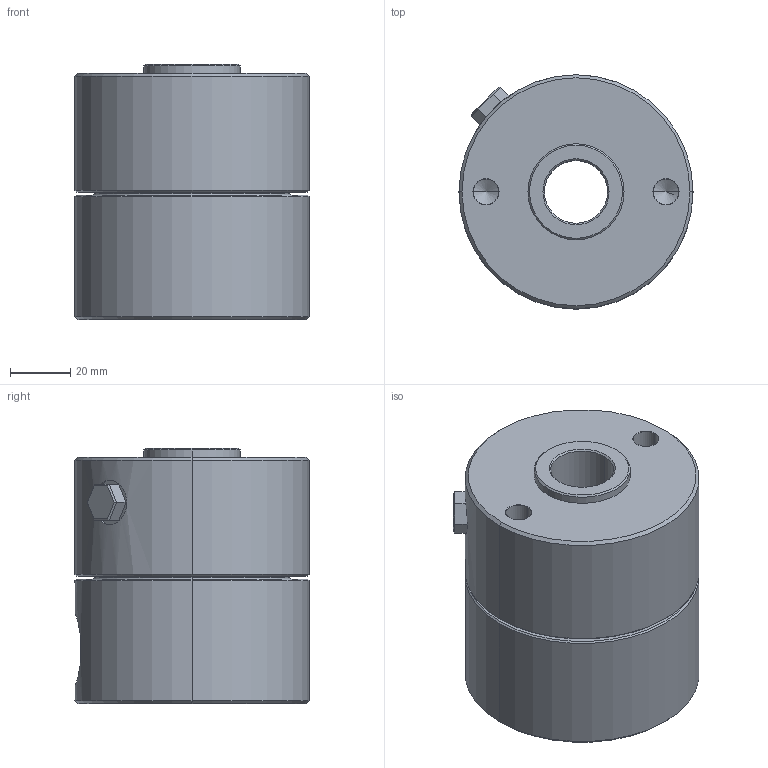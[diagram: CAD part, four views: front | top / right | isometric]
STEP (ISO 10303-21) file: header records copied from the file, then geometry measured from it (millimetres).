
FILE_DESCRIPTION (( 'STEP AP203' ), '1' );
FILE_NAME ('4610-411.STEP', '2016-01-29T10:17:29', ( '' ), ( '' ), 'SwSTEP 2.0', 'SolidWorks 2015', '' );
FILE_SCHEMA (( 'CONFIG_CONTROL_DESIGN' ));
Length unit declared in the file: millimetre
Products named in the file (1): 4610-411
Bounding box: 78 x 78 x 85 mm (x, y, z)
Volume: 356679.1 mm3; surface area: 39597.9 mm2
Topology: 1 solids, 2 shells, 71 faces, 152 edges, 86 vertices
Faces by surface type: cone 26, plane 21, cylinder 20, torus 4
Entity records: 2097 total; most frequent: CARTESIAN_POINT 486, DIRECTION 348, ORIENTED_EDGE 288, EDGE_CURVE 144, AXIS2_PLACEMENT_3D 136, VERTEX_POINT 86, EDGE_LOOP 82, VECTOR 76
